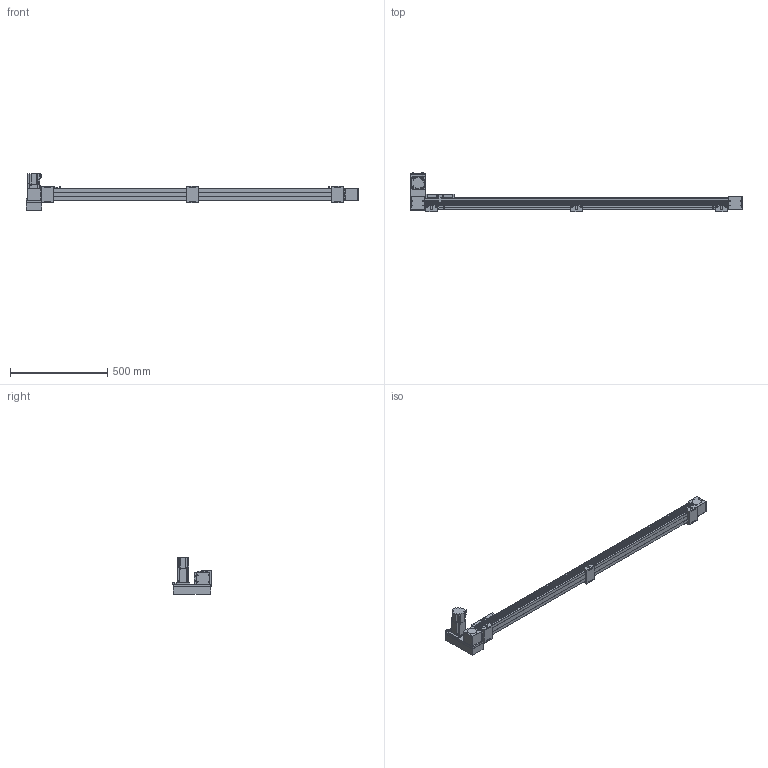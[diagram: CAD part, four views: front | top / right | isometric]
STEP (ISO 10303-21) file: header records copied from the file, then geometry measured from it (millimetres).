
FILE_DESCRIPTION(/* description */ ('STEP AP214'),/* implementation_level */ '2;1');
FILE_NAME(/* name */ 'SK60-P13-S1400-LU-T40-C1-N(0)',/* time_stamp */ '2023-04-06T04:48:00+02:00',/* author */ ('License CC BY-ND 4.0'),/* organization */ ('CADENAS'),/* preprocessor_version */ 'ST-DEVELOPER v19.3',/* originating_system */ 'PARTsolutions',/* authorisation */ ' ');
FILE_SCHEMA (('AUTOMOTIVE_DESIGN {1 0 10303 214 3 1 1}'));
Length unit declared in the file: millimetre
Products named in the file (10): SK60-P13-S1400-LU-T40-C1-N(0); PSC140-sensor; SK60-S450_seat; SK60-S450-BL-C1_slider; SK60_body3; SK60_body6; SK60-BL_body2; T40-p1; SK60-LU_fb; SK60-S1400-LU-C1_body
Assembly tree (17 placements, depth 2):
  SK60-P13-S1400-LU-T40-C1-N(0)
    PSC140-sensor  x3
    SK60-S450_seat  x3
    SK60-S450-BL-C1_slider
    SK60_body3  x3
    SK60_body6  x2
    SK60-BL_body2  x2
    T40-p1
    SK60-LU_fb
    SK60-S1400-LU-C1_body
Bounding box: 1705.5 x 201 x 189.7 mm (x, y, z)
Volume: 6967335.1 mm3; surface area: 849359.5 mm2
Topology: 17 solids, 17 shells, 854 faces, 2146 edges, 1413 vertices
Faces by surface type: plane 548, cylinder 278, cone 26, torus 2
Full cylindrical faces by diameter (mm): 2.8 x3, 3.3 x4, 4 x2, 4.5 x30, 4.6 x3, 4.917 x20, 5 x6, 5.478 x4, 5.5 x23, 6.5 x6, 7 x2, 8 x4, 8.5 x4, 9.988 x4, 10 x12, 14 x1, 47 x3, 50 x2
Entity records: 18663 total; most frequent: DIRECTION 3186, CARTESIAN_POINT 3151, ORIENTED_EDGE 2940, EDGE_CURVE 1470, AXIS2_PLACEMENT_3D 1069, LINE 1048, VECTOR 1048, VERTEX_POINT 1034
